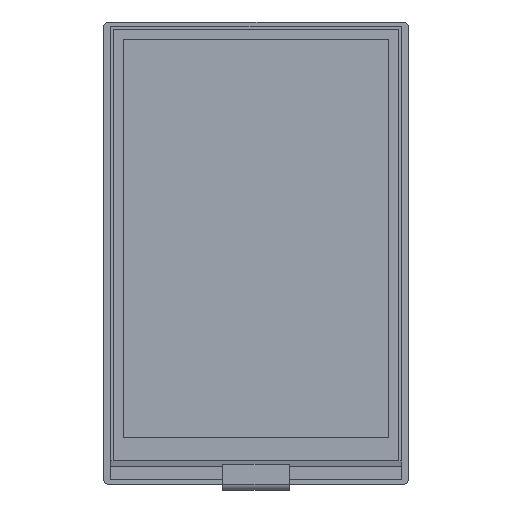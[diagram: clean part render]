
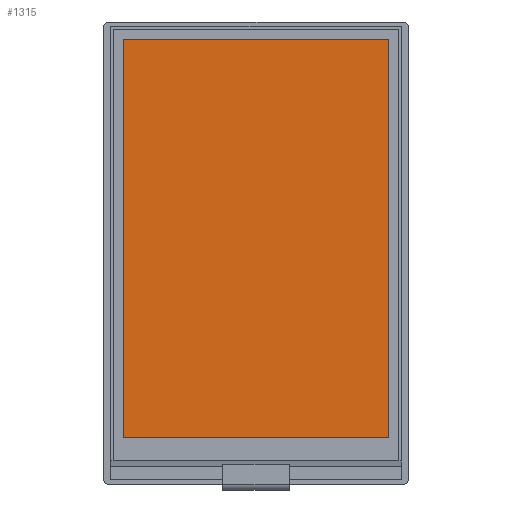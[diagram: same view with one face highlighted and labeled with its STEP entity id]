
A CAD part, top view. The second image highlights one B-rep face of the part: STEP entity #1315.
In plain terms, the highlighted planar face has unit normal (0, 0, 1).
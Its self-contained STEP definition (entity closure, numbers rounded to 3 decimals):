
#570=DIRECTION('',(1.,0.,0.));
#571=VECTOR('',#570,49.67);
#572=CARTESIAN_POINT('',(-24.835,37.255,1.1));
#573=LINE('',#572,#571);
#577=DIRECTION('',(0.,1.,0.));
#578=VECTOR('',#577,74.51);
#579=CARTESIAN_POINT('',(24.835,-37.255,1.1));
#580=LINE('',#579,#578);
#584=DIRECTION('',(1.,0.,0.));
#585=VECTOR('',#584,49.67);
#586=CARTESIAN_POINT('',(-24.835,-37.255,1.1));
#587=LINE('',#586,#585);
#591=DIRECTION('',(0.,1.,0.));
#592=VECTOR('',#591,74.51);
#593=CARTESIAN_POINT('',(-24.835,-37.255,1.1));
#594=LINE('',#593,#592);
#635=CARTESIAN_POINT('',(-24.835,37.255,1.1));
#636=CARTESIAN_POINT('',(24.835,37.255,1.1));
#637=VERTEX_POINT('',#635);
#638=VERTEX_POINT('',#636);
#639=CARTESIAN_POINT('',(24.835,-37.255,1.1));
#640=VERTEX_POINT('',#639);
#641=CARTESIAN_POINT('',(-24.835,-37.255,1.1));
#642=VERTEX_POINT('',#641);
#1301=CARTESIAN_POINT('',(0.,0.,1.1));
#1302=DIRECTION('',(0.,0.,1.));
#1303=DIRECTION('',(1.,0.,0.));
#1304=AXIS2_PLACEMENT_3D('',#1301,#1302,#1303);
#1305=PLANE('',#1304);
#1306=ORIENTED_EDGE('',*,*,#1291,.T.);
#1308=ORIENTED_EDGE('',*,*,#1307,.F.);
#1310=ORIENTED_EDGE('',*,*,#1309,.F.);
#1312=ORIENTED_EDGE('',*,*,#1311,.T.);
#1313=EDGE_LOOP('',(#1306,#1308,#1310,#1312));
#1314=FACE_OUTER_BOUND('',#1313,.F.);
#1315=ADVANCED_FACE('',(#1314),#1305,.T.);
#1291=EDGE_CURVE('',#637,#638,#573,.T.);
#1307=EDGE_CURVE('',#640,#638,#580,.T.);
#1309=EDGE_CURVE('',#642,#640,#587,.T.);
#1311=EDGE_CURVE('',#642,#637,#594,.T.);
